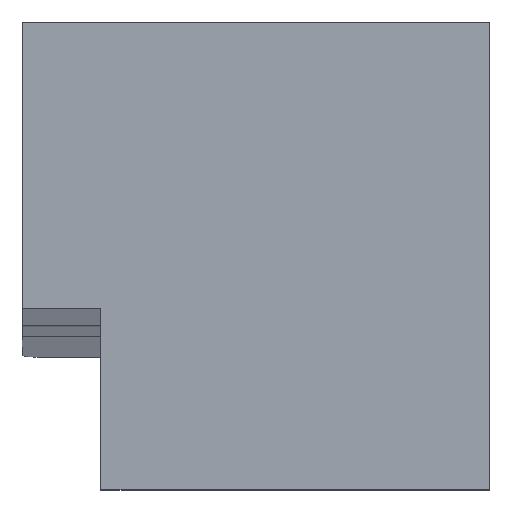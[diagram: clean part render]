
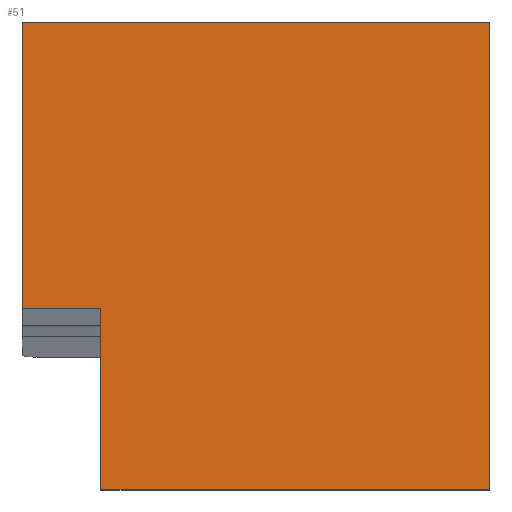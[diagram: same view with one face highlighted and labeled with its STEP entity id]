
A CAD part, top view. The second image highlights one B-rep face of the part: STEP entity #51.
In plain terms, the highlighted planar face has unit normal (0, 0, 1).
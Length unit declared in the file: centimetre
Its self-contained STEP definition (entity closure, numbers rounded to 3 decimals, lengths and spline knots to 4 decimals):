
#2 = LINE ( 'NONE', #178, #266 ) ;
#8 = ORIENTED_EDGE ( 'NONE', *, *, #306, .F. ) ;
#20 = DIRECTION ( 'NONE',  ( 1., 0., 0. ) ) ;
#27 = EDGE_CURVE ( 'NONE', #378, #110, #282, .T. ) ;
#35 = CARTESIAN_POINT ( 'NONE',  ( 168.1592, 386.591, 1000. ) ) ;
#51 = ADVANCED_FACE ( 'NONE', ( #519 ), #481, .T. ) ;
#60 = VECTOR ( 'NONE', #278, 100. ) ;
#66 = ORIENTED_EDGE ( 'NONE', *, *, #79, .F. ) ;
#70 = CARTESIAN_POINT ( 'NONE',  ( 1000., 1000., 1000. ) ) ;
#71 = CARTESIAN_POINT ( 'NONE',  ( 168.1592, 0., 1000. ) ) ;
#76 = EDGE_CURVE ( 'NONE', #110, #140, #198, .T. ) ;
#77 = LINE ( 'NONE', #35, #324 ) ;
#79 = EDGE_CURVE ( 'NONE', #463, #347, #77, .T. ) ;
#86 = CARTESIAN_POINT ( 'NONE',  ( 168.1592, 0., 1000. ) ) ;
#100 = ORIENTED_EDGE ( 'NONE', *, *, #27, .T. ) ;
#110 = VERTEX_POINT ( 'NONE', #70 ) ;
#117 = DIRECTION ( 'NONE',  ( 0., 1., 0. ) ) ;
#138 = ORIENTED_EDGE ( 'NONE', *, *, #150, .T. ) ;
#139 = DIRECTION ( 'NONE',  ( 0., -1., 0. ) ) ;
#140 = VERTEX_POINT ( 'NONE', #304 ) ;
#147 = CARTESIAN_POINT ( 'NONE',  ( 0., 0., 1000. ) ) ;
#150 = EDGE_CURVE ( 'NONE', #228, #378, #2, .T. ) ;
#158 = VECTOR ( 'NONE', #139, 100. ) ;
#178 = CARTESIAN_POINT ( 'NONE',  ( 0., 0., 1000. ) ) ;
#198 = LINE ( 'NONE', #484, #60 ) ;
#220 = VECTOR ( 'NONE', #117, 100. ) ;
#228 = VERTEX_POINT ( 'NONE', #86 ) ;
#230 = ORIENTED_EDGE ( 'NONE', *, *, #76, .T. ) ;
#266 = VECTOR ( 'NONE', #346, 100. ) ;
#269 = DIRECTION ( 'NONE',  ( 0., 1., 0. ) ) ;
#270 = VECTOR ( 'NONE', #269, 100. ) ;
#278 = DIRECTION ( 'NONE',  ( -1., 0., 0. ) ) ;
#282 = LINE ( 'NONE', #327, #220 ) ;
#304 = CARTESIAN_POINT ( 'NONE',  ( 0., 1000., 1000. ) ) ;
#306 = EDGE_CURVE ( 'NONE', #228, #463, #475, .T. ) ;
#316 = CARTESIAN_POINT ( 'NONE',  ( 0., 1000., 1000. ) ) ;
#324 = VECTOR ( 'NONE', #441, 100. ) ;
#327 = CARTESIAN_POINT ( 'NONE',  ( 1000., 1000., 1000. ) ) ;
#346 = DIRECTION ( 'NONE',  ( 1., 0., 0. ) ) ;
#347 = VERTEX_POINT ( 'NONE', #513 ) ;
#351 = EDGE_CURVE ( 'NONE', #140, #347, #437, .T. ) ;
#378 = VERTEX_POINT ( 'NONE', #404 ) ;
#396 = ORIENTED_EDGE ( 'NONE', *, *, #351, .T. ) ;
#404 = CARTESIAN_POINT ( 'NONE',  ( 1000., 0., 1000. ) ) ;
#411 = DIRECTION ( 'NONE',  ( 0., 0., 1. ) ) ;
#416 = CARTESIAN_POINT ( 'NONE',  ( 168.1592, 386.591, 1000. ) ) ;
#437 = LINE ( 'NONE', #316, #158 ) ;
#441 = DIRECTION ( 'NONE',  ( -1., 0., 0. ) ) ;
#463 = VERTEX_POINT ( 'NONE', #416 ) ;
#475 = LINE ( 'NONE', #71, #270 ) ;
#481 = PLANE ( 'NONE',  #495 ) ;
#484 = CARTESIAN_POINT ( 'NONE',  ( 0., 1000., 1000. ) ) ;
#495 = AXIS2_PLACEMENT_3D ( 'NONE', #147, #411, #20 ) ;
#505 = EDGE_LOOP ( 'NONE', ( #66, #8, #138, #100, #230, #396 ) ) ;
#513 = CARTESIAN_POINT ( 'NONE',  ( 0., 386.591, 1000. ) ) ;
#519 = FACE_OUTER_BOUND ( 'NONE', #505, .T. ) ;
